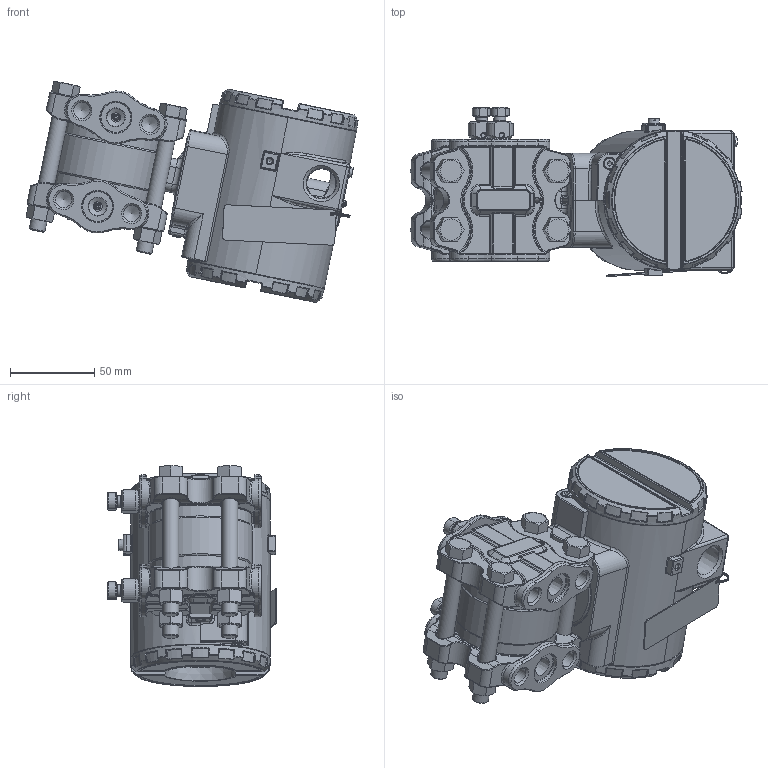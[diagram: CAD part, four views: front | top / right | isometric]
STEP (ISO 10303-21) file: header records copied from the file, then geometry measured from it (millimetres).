
FILE_DESCRIPTION(/* description */ (''),/* implementation_level */ '2;1');
FILE_NAME(/* name */ 'F:\Area\Desenvolvimento_2\Projects\Sensor\projetos\LD30X\montagens 3d - clientes\LD30XD0-3 1-4NPT purga oposta.stp',/* time_stamp */ '2023-01-26T11:42:01-03:00',/* author */ ('inventor02'),/* organization */ (''),/* preprocessor_version */ 'ST-DEVELOPER v17',/* originating_system */ 'Autodesk Inventor 2019',/* authorisation */ '');
FILE_SCHEMA (('CONFIG_CONTROL_DESIGN'));
Length unit declared in the file: millimetre
Products named in the file (29): LD30XD0-3 1-4NPT purga oposta; diferencial FX0-3 purga oposta; involucro fx0-3 apos a usinagem final; 075-B-0046-purgador; flange diferencial std sem purga; Paraf. 3-8 x 16 UNC; Porca 3-8 x 16 UNC; Sangria; carcaça vazia com tampas e plaqueta; carcaça LD inox sem letras; Subconjunto plaqueta 300; Plaqueta transmissor; Parafuso da Plaqueta; Rebite da Plaqueta; 096-A-0169-03; 101-A-0502-01; Chapa aterramento externo; ISO 1207 - M4 x 8; DIN 915 - M6 x 10; ANSI B18.3.1M - M4x0,7 x 8; Subconjunto tampa com visor aluminio; tampa pintada; VIDRO DO VISOR; oring 41x1 vidro tampa; Trava do vidro da tampa com visor; trava do vidro VH256; Subconjunto tampa sem visor-aluminio; tampa cega 300 pintada p0; 00034775-0
Assembly tree (39 placements, depth 4):
  LD30XD0-3 1-4NPT purga oposta
    diferencial FX0-3 purga oposta
      involucro fx0-3 apos a usinagem final
      flange diferencial std sem purga  x2
      075-B-0046-purgador  x2
      Paraf. 3-8 x 16 UNC  x4
      Porca 3-8 x 16 UNC  x4
      Sangria  x2
    carcaça vazia com tampas e plaqueta
      carcaça LD inox sem letras
      Subconjunto plaqueta 300
        Plaqueta transmissor
        Parafuso da Plaqueta
        Rebite da Plaqueta
        096-A-0169-03
        101-A-0502-01
      Chapa aterramento externo
      ISO 1207 - M4 x 8
      DIN 915 - M6 x 10
      ANSI B18.3.1M - M4x0,7 x 8  x2
      Subconjunto tampa com visor aluminio
        tampa pintada
        VIDRO DO VISOR
        oring 41x1 vidro tampa
        Trava do vidro da tampa com visor
        trava do vidro VH256
        00034775-0
      Subconjunto tampa sem visor-aluminio
        tampa cega 300 pintada p0
        00034775-0
Bounding box: 197.58 x 100.6 x 131.53 mm (x, y, z)
Volume: 586289.7 mm3; surface area: 231586.4 mm2
Topology: 34 solids, 34 shells, 2590 faces, 6201 edges, 3643 vertices
Faces by surface type: bspline 673, cylinder 631, plane 490, torus 436, cone 239, sphere 121
Full cylindrical faces by diameter (mm): 2 x2, 2.1 x2, 2.459 x5, 2.642 x1, 2.7 x1, 3 x7, 3.242 x4, 3.5 x4, 3.571 x1, 4 x4, 4.3 x1, 4.4 x1, 4.917 x1, 5.5 x6, 6 x2, 6.8 x2, 7 x6, 7.087 x2, 7.6 x2, 7.798 x4, 8 x2, 8.7 x2, 9.525 x4, 9.728 x8, 10.5 x8, 10.719 x4, 13.8 x2, 14 x1, 17.475 x2, 18.5 x4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
Entity records: 76292 total; most frequent: CARTESIAN_POINT 29079, ORIENTED_EDGE 9818, DIRECTION 9576, EDGE_CURVE 4909, AXIS2_PLACEMENT_3D 4206, VERTEX_POINT 2911, CIRCLE 2469, EDGE_LOOP 2180
